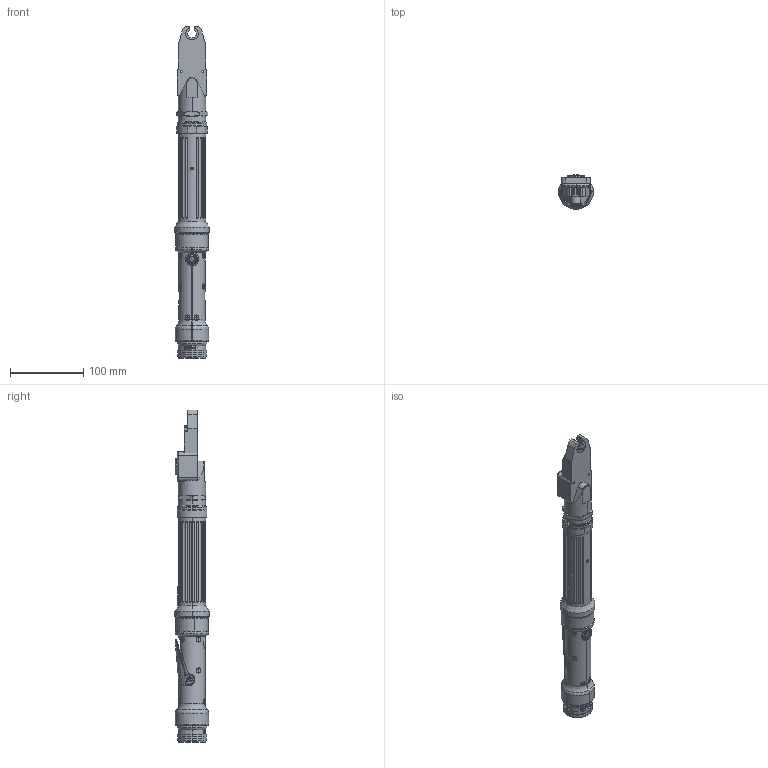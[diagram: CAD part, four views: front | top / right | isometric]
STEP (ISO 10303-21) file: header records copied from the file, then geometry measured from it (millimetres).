
FILE_DESCRIPTION (( 'STEP AP214' ), '1' );
FILE_NAME ('AET32020C.STEP', '2016-04-19T21:22:13', ( 'AIMCO' ), ( '' ), 'SwSTEP 2.0', 'SolidWorks 2016', '' );
FILE_SCHEMA (( 'AUTOMOTIVE_DESIGN' ));
Length unit declared in the file: inch
Products named in the file (1): AET32020C
Bounding box: 46.99 x 46.99 x 451.86 mm (x, y, z)
Surface area: 84682.9 mm2 (no closed solid volume)
Topology: 0 solids, 83 shells, 921 faces, 3282 edges, 2312 vertices
Faces by surface type: plane 248, cylinder 222, bspline 145, cone 140, torus 124, sphere 42
Entity records: 63688 total; most frequent: CARTESIAN_POINT 26713, ORIENTED_EDGE 4929, DIRECTION 4605, EDGE_CURVE 3202, VERTEX_POINT 2272, AXIS2_PLACEMENT_3D 1796, B_SPLINE_CURVE_WITH_KNOTS 1122, EDGE_LOOP 1067
